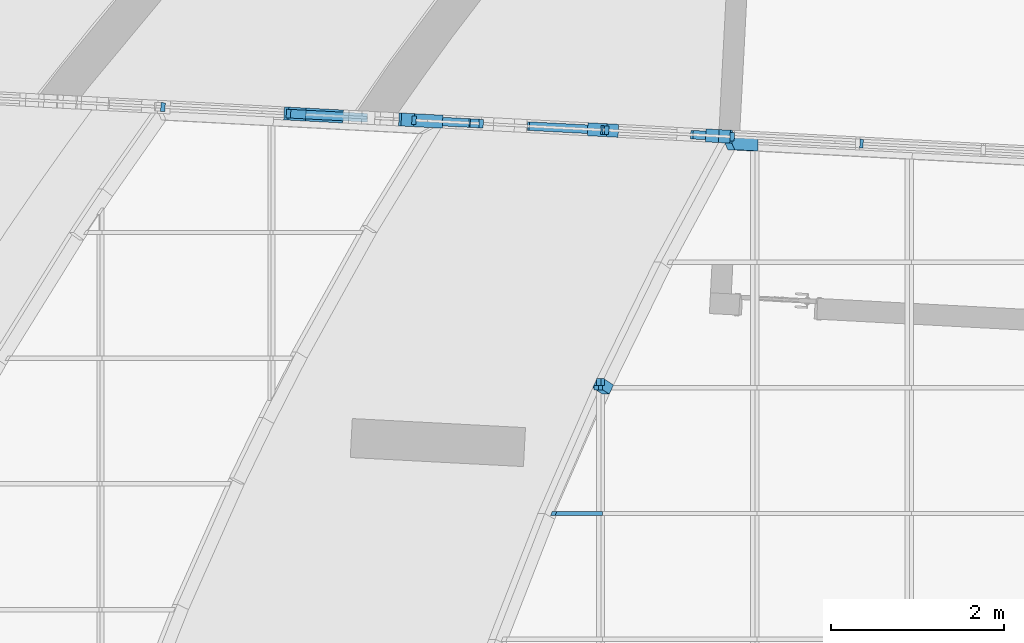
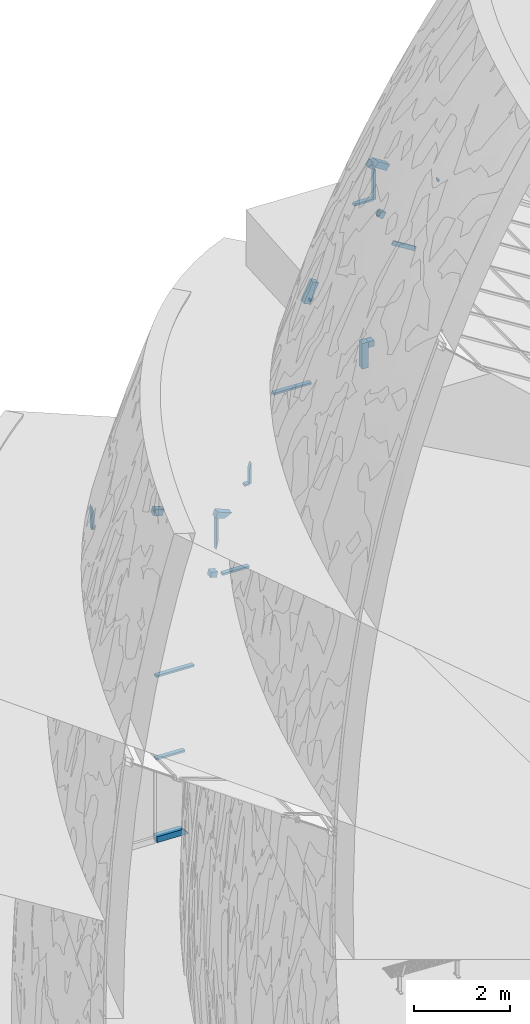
# One storey, part 31 of 82: 28 members, 2 elements without a shape of their own.
"""IFC2X3 building model written with IfcOpenShell, lengths in millimetres."""

from ifc_helpers import new_model, entity, si_unit, converted_unit, derived_unit, direction, frame, frame_2d, origin, origin_2d_with_axis, place, context, subcontext, project, spatial, polyline, rectangle, extrude, clip, halfspace, bounded_halfspace, source, transform, mapped, material, type_object, type_shapes, element, aggregate, save


model = new_model("IFC2X3")

# Units and contexts
model_context = context("Model", 3, precision=0.01, world=origin(), true_north=direction((6.12303176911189e-17, 1.0)))
body_context = subcontext(model_context, "Body", "Model", "MODEL_VIEW")
ifc_project = project(units=[si_unit("LENGTHUNIT", "METRE", prefix="MILLI"), si_unit("AREAUNIT", "SQUARE_METRE"), si_unit("VOLUMEUNIT", "CUBIC_METRE"), converted_unit("PLANEANGLEUNIT", "DEGREE", entity("IfcRatioMeasure", 0.0174532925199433), si_unit("PLANEANGLEUNIT", "RADIAN"), dimensions=[0, 0, 0, 0, 0, 0, 0]), si_unit("MASSUNIT", "GRAM", prefix="KILO"), derived_unit("MASSDENSITYUNIT", [(si_unit("MASSUNIT", "GRAM", prefix="KILO"), 1), (si_unit("LENGTHUNIT", "METRE"), -3)]), si_unit("TIMEUNIT", "SECOND"), si_unit("FREQUENCYUNIT", "HERTZ"), si_unit("THERMODYNAMICTEMPERATUREUNIT", "DEGREE_CELSIUS"), derived_unit("THERMALTRANSMITTANCEUNIT", [(si_unit("MASSUNIT", "GRAM", prefix="KILO"), 1), (si_unit("THERMODYNAMICTEMPERATUREUNIT", "KELVIN"), -1), (si_unit("TIMEUNIT", "SECOND"), -3)]), derived_unit("VOLUMETRICFLOWRATEUNIT", [(si_unit("LENGTHUNIT", "METRE"), 3), (si_unit("TIMEUNIT", "SECOND"), -1)]), si_unit("ELECTRICCURRENTUNIT", "AMPERE"), si_unit("ELECTRICVOLTAGEUNIT", "VOLT"), si_unit("POWERUNIT", "WATT"), si_unit("FORCEUNIT", "NEWTON", prefix="KILO"), si_unit("ILLUMINANCEUNIT", "LUX"), si_unit("LUMINOUSFLUXUNIT", "LUMEN"), si_unit("LUMINOUSINTENSITYUNIT", "CANDELA"), derived_unit("USERDEFINED", [(si_unit("MASSUNIT", "GRAM", prefix="KILO"), -1), (si_unit("LENGTHUNIT", "METRE"), -2), (si_unit("TIMEUNIT", "SECOND"), 3), (si_unit("LUMINOUSFLUXUNIT", "LUMEN"), 1)]), derived_unit("LINEARVELOCITYUNIT", [(si_unit("LENGTHUNIT", "METRE"), 1), (si_unit("TIMEUNIT", "SECOND"), -1)]), si_unit("PRESSUREUNIT", "PASCAL"), derived_unit("USERDEFINED", [(si_unit("LENGTHUNIT", "METRE"), -2), (si_unit("MASSUNIT", "GRAM", prefix="KILO"), 1), (si_unit("TIMEUNIT", "SECOND"), -2)])], contexts=[model_context])

# Site, building, storey
site_placement = place(None, origin())
site = spatial("IfcSite", under=ifc_project, at=site_placement, Name="表面", CompositionType="ELEMENT")
building_placement = place(site_placement, origin())
building = spatial("IfcBuilding", under=site, at=building_placement, CompositionType="ELEMENT")
storey_placement = place(building_placement, origin())
storey = spatial("IfcBuildingStorey", under=building, at=storey_placement, Name="1F", CompositionType="ELEMENT", Elevation=0.0)

# Curtain wall, members
curtain_wall_type = type_object("IfcCurtainWallType", Name="幕墙系统:1450 x 2100mm", PredefinedType="NOTDEFINED")
curtain_wall_1_placement = place(storey_placement, origin())
curtain_wall_1 = element("IfcCurtainWall", 1, at=curtain_wall_1_placement, inside=storey, type_object=curtain_wall_type, Name="幕墙系统:1450 x 2100mm", ObjectType="幕墙系统:1450 x 2100mm")
ifc_material_1 = material(Name="木质 - 木材")
member_type_1 = type_object("IfcMemberType", Name="200 x 150mm", PredefinedType="MEMBER")
shared_shape_1 = source(origin(), body_context, "Body", "SweptSolid", [
    extrude(rectangle(XDim=150.0, YDim=150.0, at=origin_2d_with_axis()), frame((-75.0, 0.0, -119.992011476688), z_axis=(0.0, 0.0, 1.0), x_axis=(0.0, -1.0, 0.0)), (0.0, 0.0, 1.0), 119.992011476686),
])
type_shapes(member_type_1, [shared_shape_1])
placement_1 = place(building_placement, frame((0.0, 0.0, 9000.0)))
member_1_placement = place(placement_1, frame((-27042.7036207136, -233.58766932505, 7594.35361657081), z_axis=(0.406413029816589, 0.877687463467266, -0.253955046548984), x_axis=(-0.744321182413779, 0.47923346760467, 0.465103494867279)))
member_1 = element("IfcMember", 2, at=member_1_placement, type_object=member_type_1, material=ifc_material_1, Name="矩形竖梃:200 x 150mm", ObjectType="200 x 150mm", context=body_context, shape_type="MappedRepresentation", body=[
    mapped(shared_shape_1, transform((0.0, 0.0, 0.0), scale=1.0)),
])
member_type_2 = type_object("IfcMemberType", Name="200 x 150mm", PredefinedType="MEMBER")
shared_shape_2 = source(origin(), body_context, "Body", "Clipping", [
    clip(extrude(rectangle(XDim=150.0, YDim=150.0, at=origin_2d_with_axis()), frame((-75.0, 0.0, -400.106505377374), z_axis=(0.0, 0.0, 1.0), x_axis=(0.0, -1.0, 0.0)), (0.0, 0.0, 1.0), 400.106505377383), halfspace(frame((0.0, -304.799999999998, -400.106505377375), z_axis=(-0.500013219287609, 0.0, -0.866017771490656), x_axis=(-0.866017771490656, 0.0, 0.500013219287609)), False)),
])
type_shapes(member_type_2, [shared_shape_2])
member_2_placement = place(placement_1, frame((-25261.8026187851, 2543.33192279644, 6481.52316168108), z_axis=(0.847211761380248, -0.0444004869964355, -0.52939666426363), x_axis=(0.0376537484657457, 0.999013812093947, -0.0235286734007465)))
member_2 = element("IfcMember", 3, at=member_2_placement, type_object=member_type_2, material=ifc_material_1, Name="矩形竖梃:200 x 150mm", ObjectType="200 x 150mm", context=body_context, shape_type="MappedRepresentation", body=[
    mapped(shared_shape_2, transform((0.0, 0.0, 0.0), scale=1.0)),
])
ifc_material_2 = material(Name="金属 - 铝")
member_type_3 = type_object("IfcMemberType", Name="50 x 100mm", PredefinedType="MEMBER")
shared_shape_3 = source(origin(), body_context, "Body", "SweptSolid", [
    extrude(rectangle(XDim=100.0, YDim=50.0, at=origin_2d_with_axis()), frame((0.0, 0.0, -80.3154841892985), z_axis=(0.0, 0.0, 1.0), x_axis=(0.0, -1.0, 0.0)), (0.0, 0.0, 1.0), 80.3154841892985),
])
type_shapes(member_type_3, [shared_shape_3])
member_3_placement = place(placement_1, frame((-27042.7036207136, -233.58766932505, 7594.35361657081), z_axis=(0.0, 1.0, 0.0), x_axis=(-0.848048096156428, 0.0, 0.529919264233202)))
member_3 = element("IfcMember", 4, at=member_3_placement, type_object=member_type_3, material=ifc_material_2, Name="矩形竖梃:50 x 100mm", ObjectType="50 x 100mm", context=body_context, shape_type="MappedRepresentation", body=[
    mapped(shared_shape_3, transform((0.0, 0.0, 0.0), scale=1.0)),
])
member_type_4 = type_object("IfcMemberType", Name="50 x 100mm", PredefinedType="MEMBER")
shared_shape_4 = source(origin(), body_context, "Body", "SweptSolid", [
    extrude(rectangle(XDim=100.0, YDim=50.0, at=origin_2d_with_axis()), frame((0.0, 0.0, -57.5041877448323), z_axis=(0.0, 0.0, 1.0), x_axis=(0.0, -1.0, 0.0)), (0.0, 0.0, 1.0), 57.5041877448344),
])
type_shapes(member_type_4, [shared_shape_4])
member_4_placement = place(placement_1, frame((-27091.4699376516, -338.903153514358, 7624.82619343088), z_axis=(-0.848048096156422, 0.0, 0.529919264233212), x_axis=(0.0, -1.0, 0.0)))
member_4 = element("IfcMember", 5, at=member_4_placement, type_object=member_type_4, material=ifc_material_2, Name="矩形竖梃:50 x 100mm", ObjectType="50 x 100mm", context=body_context, shape_type="MappedRepresentation", body=[
    mapped(shared_shape_4, transform((0.0, 0.0, 0.0), scale=1.0)),
])
member_type_5 = type_object("IfcMemberType", Name="50 x 100mm", PredefinedType="MEMBER")
shared_shape_5 = source(origin(), body_context, "Body", "Clipping", [
    clip(extrude(rectangle(XDim=100.0, YDim=50.0, at=frame_2d((-3.19744231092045e-14, 0.0), x_axis=(1.0, 0.0))), frame((0.0, 0.0, -804.346636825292), z_axis=(0.0, 0.0, 1.0), x_axis=(0.0, -1.0, 0.0)), (0.0, 0.0, 1.0), 648.495520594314), halfspace(frame((-1381.31575991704, 75.0, -880.193396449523), z_axis=(-0.457894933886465, 0.0, 0.889006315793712), x_axis=(0.889006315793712, 0.0, 0.457894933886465)), False)),
])
type_shapes(member_type_5, [shared_shape_5])
member_5_placement = place(placement_1, frame((-27724.8282547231, -1788.90315351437, 8020.59239454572), z_axis=(-0.848048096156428, 0.0, 0.529919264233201), x_axis=(0.0, -1.0, 0.0)))
member_5 = element("IfcMember", 6, at=member_5_placement, type_object=member_type_5, material=ifc_material_2, Name="矩形竖梃:50 x 100mm", ObjectType="50 x 100mm", context=body_context, shape_type="MappedRepresentation", body=[
    mapped(shared_shape_5, transform((0.0, 0.0, 0.0), scale=1.0)),
])
member_type_6 = type_object("IfcMemberType", Name="200 x 150mm", PredefinedType="MEMBER")
shared_shape_6 = source(origin(), body_context, "Body", "SweptSolid", [
    extrude(rectangle(XDim=150.0, YDim=150.0, at=origin_2d_with_axis()), frame((-75.0, 0.0, -92.6751267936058), z_axis=(0.0, 0.0, 1.0), x_axis=(0.0, -1.0, 0.0)), (0.0, 0.0, 1.0), 92.6751267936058),
])
type_shapes(member_type_6, [shared_shape_6])
member_6_placement = place(placement_1, frame((-25600.7775559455, 2561.09684648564, 6693.33821097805), z_axis=(-0.847211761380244, 0.0444004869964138, 0.529396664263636), x_axis=(0.528671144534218, -0.0277064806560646, 0.848374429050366)))
member_6 = element("IfcMember", 7, at=member_6_placement, type_object=member_type_6, material=ifc_material_1, Name="矩形竖梃:200 x 150mm", ObjectType="200 x 150mm", context=body_context, shape_type="MappedRepresentation", body=[
    mapped(shared_shape_6, transform((0.0, 0.0, 0.0), scale=1.0)),
])
member_type_7 = type_object("IfcMemberType", Name="200 x 150mm", PredefinedType="MEMBER")
shared_shape_7 = source(origin(), body_context, "Body", "SweptSolid", [
    extrude(rectangle(XDim=150.0, YDim=150.0, at=origin_2d_with_axis()), frame((-75.0, 0.0, -650.0), z_axis=(0.0, 0.0, 1.0), x_axis=(0.0, -1.0, 0.0)), (0.0, 0.0, 1.0), 650.0),
])
type_shapes(member_type_7, [shared_shape_7])
member_7_placement = place(placement_1, frame((-25677.8515984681, 2565.13612589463, 2150.0), z_axis=(0.0, 0.0, 1.0), x_axis=(0.998629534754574, -0.0523359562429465, 0.0)))
member_7 = element("IfcMember", 8, at=member_7_placement, type_object=member_type_7, material=ifc_material_1, Name="矩形竖梃:200 x 150mm", ObjectType="200 x 150mm", context=body_context, shape_type="MappedRepresentation", body=[
    mapped(shared_shape_7, transform((0.0, 0.0, 0.0), scale=1.0)),
])
member_type_8 = type_object("IfcMemberType", Name="200 x 150mm", PredefinedType="MEMBER")
shared_shape_8 = source(origin(), body_context, "Body", "SweptSolid", [
    extrude(rectangle(XDim=150.0, YDim=150.0, at=origin_2d_with_axis()), frame((-75.0, 0.0, -130.803022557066), z_axis=(0.0, 0.0, 1.0), x_axis=(0.0, -1.0, 0.0)), (0.0, 0.0, 1.0), 130.803022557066),
])
type_shapes(member_type_8, [shared_shape_8])
member_8_placement = place(placement_1, frame((-25547.2278369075, 2558.29042462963, 2000.0), z_axis=(0.998629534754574, -0.0523359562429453, 0.0), x_axis=(0.0, 0.0, -1.0)))
member_8 = element("IfcMember", 9, at=member_8_placement, type_object=member_type_8, material=ifc_material_1, Name="矩形竖梃:200 x 150mm", ObjectType="200 x 150mm", context=body_context, shape_type="MappedRepresentation", body=[
    mapped(shared_shape_8, transform((0.0, 0.0, 0.0), scale=1.0)),
])
member_type_9 = type_object("IfcMemberType", Name="200 x 150mm", PredefinedType="MEMBER")
shared_shape_9 = source(origin(), body_context, "Body", "Clipping", [
    clip(clip(extrude(rectangle(XDim=150.0, YDim=150.0, at=origin_2d_with_axis()), frame((-75.0, 0.0, -531.708752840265), z_axis=(0.0, 0.0, 1.0), x_axis=(0.0, -1.0, 0.0)), (0.0, 0.0, 1.0), 531.708752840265), halfspace(frame((0.0, -304.8, -531.708752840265), z_axis=(-0.0188956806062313, 0.0, -0.999821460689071), x_axis=(-0.999821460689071, 0.0, 0.0188956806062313)), False)), halfspace(frame((0.0, -304.8, 0.0), z_axis=(-0.0225704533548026, 0.0, 0.999745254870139), x_axis=(-0.999745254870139, 0.0, -0.0225704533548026)), False)),
])
type_shapes(member_type_9, [shared_shape_9])
member_9_placement = place(placement_1, frame((-27190.4935887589, 2644.41033345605, 3600.0), z_axis=(-0.414171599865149, 0.0217058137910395, -0.909939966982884), x_axis=(-0.90869292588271, 0.0476225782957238, 0.414739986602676)))
member_9 = element("IfcMember", 10, at=member_9_placement, type_object=member_type_9, material=ifc_material_1, Name="矩形竖梃:200 x 150mm", ObjectType="200 x 150mm", context=body_context, shape_type="MappedRepresentation", body=[
    mapped(shared_shape_9, transform((0.0, 0.0, 0.0), scale=1.0)),
])
member_type_10 = type_object("IfcMemberType", Name="50 x 100mm", PredefinedType="MEMBER")
shared_shape_10 = source(origin(), body_context, "Body", "Clipping", [
    clip(extrude(rectangle(XDim=100.0, YDim=50.0, at=origin_2d_with_axis()), frame((0.0, 0.0, -777.339763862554), z_axis=(0.0, 0.0, 1.0), x_axis=(0.0, -1.0, 0.0)), (0.0, 0.0, 1.0), 629.033748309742), halfspace(frame((-30.5735387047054, 75.0, -146.943247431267), z_axis=(0.237510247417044, 0.0, 0.971385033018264), x_axis=(0.971385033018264, 0.0, -0.237510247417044)), False)),
])
type_shapes(member_type_10, [shared_shape_10])
placement_2 = place(building_placement, frame((0.0, 0.0, 6000.0)))
member_10_placement = place(placement_2, frame((-29219.527934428, 2750.7475176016, 300.0), z_axis=(-0.998629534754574, 0.0523359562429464, 0.0), x_axis=(0.0, 0.0, 1.0)))
member_10 = element("IfcMember", 11, at=member_10_placement, type_object=member_type_10, material=ifc_material_2, Name="矩形竖梃:50 x 100mm", ObjectType="50 x 100mm", context=body_context, shape_type="MappedRepresentation", body=[
    mapped(shared_shape_10, transform((0.0, 0.0, 0.0), scale=1.0)),
])
member_type_11 = type_object("IfcMemberType", Name="50 x 100mm", PredefinedType="MEMBER")
shared_shape_11 = source(origin(), body_context, "Body", "Clipping", [
    clip(extrude(rectangle(XDim=100.0, YDim=50.0, at=origin_2d_with_axis()), frame((0.0, 0.0, -263.875480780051), z_axis=(0.0, 0.0, 1.0), x_axis=(0.0, -1.0, 0.0)), (0.0, 0.0, 1.0), 114.780327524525), halfspace(frame((-39.3556639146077, 75.0, -144.795958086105), z_axis=(0.286888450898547, 0.0, 0.957963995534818), x_axis=(0.957963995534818, 0.0, -0.286888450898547)), False)),
])
type_shapes(member_type_11, [shared_shape_11])
member_11_placement = place(placement_2, frame((-28706.7673363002, 2723.87487334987, 2400.0), z_axis=(-0.998629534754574, 0.0523359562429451, 0.0), x_axis=(0.0, 0.0, 1.0)))
member_11 = element("IfcMember", 12, at=member_11_placement, type_object=member_type_11, material=ifc_material_2, Name="矩形竖梃:50 x 100mm", ObjectType="50 x 100mm", context=body_context, shape_type="MappedRepresentation", body=[
    mapped(shared_shape_11, transform((0.0, 0.0, 0.0), scale=1.0)),
])
member_type_12 = type_object("IfcMemberType", Name="50 x 100mm", PredefinedType="MEMBER")
shared_shape_12 = source(origin(), body_context, "Body", "Clipping", [
    clip(extrude(rectangle(XDim=100.0, YDim=50.0, at=origin_2d_with_axis()), frame((0.0, 0.0, -1040.41123048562), z_axis=(0.0, 0.0, 1.0), x_axis=(0.0, -1.0, 0.0)), (0.0, 0.0, 1.0), 888.784448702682), halfspace(frame((-52.0961476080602, 75.0, -140.725222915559), z_axis=(0.373252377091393, 0.0, 0.92772984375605), x_axis=(0.92772984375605, 0.0, -0.373252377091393)), False)),
])
type_shapes(member_type_12, [shared_shape_12])
member_12_placement = place(placement_1, frame((-28034.2260453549, 2688.62847781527, 1500.0), z_axis=(-0.998629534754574, 0.0523359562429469, 0.0), x_axis=(0.0, 0.0, 1.0)))
member_12 = element("IfcMember", 13, at=member_12_placement, type_object=member_type_12, material=ifc_material_2, Name="矩形竖梃:50 x 100mm", ObjectType="50 x 100mm", context=body_context, shape_type="MappedRepresentation", body=[
    mapped(shared_shape_12, transform((0.0, 0.0, 0.0), scale=1.0)),
])
member_type_13 = type_object("IfcMemberType", Name="50 x 100mm", PredefinedType="MEMBER")
shared_shape_13 = source(origin(), body_context, "Body", "Clipping", [
    clip(extrude(rectangle(XDim=100.0, YDim=50.0, at=origin_2d_with_axis()), frame((0.0, 0.0, -195.520881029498), z_axis=(0.0, 0.0, 1.0), x_axis=(0.0, -1.0, 0.0)), (0.0, 0.0, 1.0), 42.0695486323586), halfspace(frame((-59.1295493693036, 75.0, -137.895483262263), z_axis=(0.414739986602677, 0.0, 0.909939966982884), x_axis=(0.909939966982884, 0.0, -0.414739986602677)), False)),
])
type_shapes(member_type_13, [shared_shape_13])
member_13_placement = place(placement_1, frame((-27190.4935887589, 2644.41033345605, 3600.0), z_axis=(-0.998629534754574, 0.0523359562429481, 0.0), x_axis=(0.0, 0.0, 1.0)))
member_13 = element("IfcMember", 14, at=member_13_placement, type_object=member_type_13, material=ifc_material_2, Name="矩形竖梃:50 x 100mm", ObjectType="50 x 100mm", context=body_context, shape_type="MappedRepresentation", body=[
    mapped(shared_shape_13, transform((0.0, 0.0, 0.0), scale=1.0)),
])
member_type_14 = type_object("IfcMemberType", Name="50 x 100mm", PredefinedType="MEMBER")
shared_shape_14 = source(origin(), body_context, "Body", "Clipping", [
    clip(extrude(rectangle(XDim=100.0, YDim=50.0, at=origin_2d_with_axis()), frame((0.0, 0.0, -613.265696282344), z_axis=(0.0, 0.0, 1.0), x_axis=(0.0, -1.0, 0.0)), (0.0, 0.0, 1.0), 455.182556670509), halfspace(frame((-70.5159292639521, 75.0, -132.439660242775), z_axis=(0.490853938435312, 0.0, 0.871241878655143), x_axis=(0.871241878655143, 0.0, -0.490853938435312)), False)),
])
type_shapes(member_type_14, [shared_shape_14])
member_14_placement = place(placement_1, frame((-26159.6530738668, 2590.38627127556, 5700.0), z_axis=(-0.998629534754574, 0.0523359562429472, 0.0), x_axis=(0.0, 0.0, 1.0)))
member_14 = element("IfcMember", 15, at=member_14_placement, type_object=member_type_14, material=ifc_material_2, Name="矩形竖梃:50 x 100mm", ObjectType="50 x 100mm", context=body_context, shape_type="MappedRepresentation", body=[
    mapped(shared_shape_14, transform((0.0, 0.0, 0.0), scale=1.0)),
])
member_type_15 = type_object("IfcMemberType", Name="50 x 100mm", PredefinedType="MEMBER")
shared_shape_15 = source(origin(), body_context, "Body", "SweptSolid", [
    extrude(rectangle(XDim=100.0, YDim=50.0, at=origin_2d_with_axis()), frame((0.0, 0.0, -38.231812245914), z_axis=(0.0, 0.0, 1.0), x_axis=(0.0, -1.0, 0.0)), (0.0, 0.0, 1.0), 38.2318122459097),
])
type_shapes(member_type_15, [shared_shape_15])
member_15_placement = place(placement_1, frame((-24049.2835347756, 2479.78649026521, 5700.0), z_axis=(-0.998629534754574, 0.0523359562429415, 0.0), x_axis=(0.0, 0.0, 1.0)))
member_15 = element("IfcMember", 16, at=member_15_placement, type_object=member_type_15, material=ifc_material_2, Name="矩形竖梃:50 x 100mm", ObjectType="50 x 100mm", context=body_context, shape_type="MappedRepresentation", body=[
    mapped(shared_shape_15, transform((0.0, 0.0, 0.0), scale=1.0)),
])
member_type_16 = type_object("IfcMemberType", Name="50 x 100mm", PredefinedType="MEMBER")
shared_shape_16 = source(origin(), body_context, "Body", "Clipping", [
    clip(extrude(rectangle(XDim=100.0, YDim=50.0, at=origin_2d_with_axis()), frame((0.0, 0.0, -964.598989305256), z_axis=(0.0, 0.0, 1.0), x_axis=(0.0, -1.0, 0.0)), (0.0, 0.0, 1.0), 525.226474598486), halfspace(frame((-145.180881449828, 75.0, -1007.63225694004), z_axis=(-0.957963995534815, 0.0, 0.286888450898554), x_axis=(0.286888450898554, 0.0, 0.957963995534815)), False)),
])
type_shapes(member_type_16, [shared_shape_16])
member_16_placement = place(placement_2, frame((-28418.2877493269, 2708.75629882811, 3364.5989893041), z_axis=(0.0, 0.0, 1.0), x_axis=(0.998629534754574, -0.0523359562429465, 0.0)))
member_16 = element("IfcMember", 17, at=member_16_placement, type_object=member_type_16, material=ifc_material_2, Name="矩形竖梃:50 x 100mm", ObjectType="50 x 100mm", context=body_context, shape_type="MappedRepresentation", body=[
    mapped(shared_shape_16, transform((0.0, 0.0, 0.0), scale=1.0)),
])
member_type_17 = type_object("IfcMemberType", Name="50 x 100mm", PredefinedType="MEMBER")
shared_shape_17 = source(origin(), body_context, "Body", "Clipping", [
    clip(extrude(rectangle(XDim=100.0, YDim=50.0, at=origin_2d_with_axis()), frame((0.0, 0.0, -483.823045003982), z_axis=(0.0, 0.0, 1.0), x_axis=(0.0, -1.0, 0.0)), (0.0, 0.0, 1.0), 177.000686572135), halfspace(frame((-84.0298859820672, 75.0, -546.034042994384), z_axis=(-0.909939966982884, 0.0, 0.414739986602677), x_axis=(0.414739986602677, 0.0, 0.909939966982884)), False)),
])
type_shapes(member_type_17, [shared_shape_17])
member_17_placement = place(placement_1, frame((-26970.2749239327, 2632.86916227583, 4083.82304500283), z_axis=(0.0, 0.0, 1.0), x_axis=(0.998629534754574, -0.0523359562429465, 0.0)))
member_17 = element("IfcMember", 18, at=member_17_placement, type_object=member_type_17, material=ifc_material_2, Name="矩形竖梃:50 x 100mm", ObjectType="50 x 100mm", context=body_context, shape_type="MappedRepresentation", body=[
    mapped(shared_shape_17, transform((0.0, 0.0, 0.0), scale=1.0)),
])
member_type_18 = type_object("IfcMemberType", Name="50 x 100mm", PredefinedType="MEMBER")
shared_shape_18 = source(origin(), body_context, "Body", "Clipping", [
    clip(extrude(rectangle(XDim=100.0, YDim=50.0, at=origin_2d_with_axis()), frame((0.0, 0.0, -944.276307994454), z_axis=(0.0, 0.0, 1.0), x_axis=(0.0, -1.0, 0.0)), (0.0, 0.0, 1.0), 783.067909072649), halfspace(frame((-79.4094996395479, 75.0, -127.256164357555), z_axis=(0.52939666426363, 0.0, 0.84837442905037), x_axis=(0.84837442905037, 0.0, -0.52939666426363)), False)),
])
type_shapes(member_type_18, [shared_shape_18])
member_18_placement = place(placement_1, frame((-25522.2620985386, 2556.98202572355, 6644.2763079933), z_axis=(0.0, 0.0, 1.0), x_axis=(0.998629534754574, -0.0523359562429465, 0.0)))
member_18 = element("IfcMember", 19, at=member_18_placement, type_object=member_type_18, material=ifc_material_2, Name="矩形竖梃:50 x 100mm", ObjectType="50 x 100mm", context=body_context, shape_type="MappedRepresentation", body=[
    mapped(shared_shape_18, transform((0.0, 0.0, 0.0), scale=1.0)),
])
aggregate(curtain_wall_1, [member_1, member_2, member_3, member_4, member_5, member_6, member_7, member_8, member_9, member_10, member_11, member_12, member_13, member_14, member_15, member_16, member_17, member_18])

curtain_wall_2_placement = place(storey_placement, origin())
curtain_wall_2 = element("IfcCurtainWall", 20, at=curtain_wall_2_placement, inside=storey, type_object=curtain_wall_type, Name="幕墙系统:1450 x 2100mm", ObjectType="幕墙系统:1450 x 2100mm")
member_type_19 = type_object("IfcMemberType", Name="200 x 150mm", PredefinedType="MEMBER")
shared_shape_19 = source(origin(), body_context, "Body", "Clipping", [
    clip(extrude(rectangle(XDim=150.0, YDim=150.0, at=origin_2d_with_axis()), frame((-75.0, 0.0, -749.616838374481), z_axis=(0.0, 0.0, 1.0), x_axis=(0.0, -1.0, 0.0)), (0.0, 0.0, 1.0), 749.616838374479), halfspace(frame((0.0, -304.8, 0.0), z_axis=(-0.695007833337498, 0.0, 0.719002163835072), x_axis=(-0.719002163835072, 0.0, -0.695007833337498)), False)),
])
type_shapes(member_type_19, [shared_shape_19])
member_19_placement = place(storey_placement, frame((-29866.9896060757, 2783.63437901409, 0.0), z_axis=(0.998629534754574, -0.0523359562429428, 0.0), x_axis=(0.0, 0.0, -1.0)))
member_19 = element("IfcMember", 21, at=member_19_placement, type_object=member_type_19, material=ifc_material_1, Name="矩形竖梃:200 x 150mm", ObjectType="200 x 150mm", context=body_context, shape_type="MappedRepresentation", body=[
    mapped(shared_shape_19, transform((0.0, 0.0, 0.0), scale=1.0)),
])
member_type_20 = type_object("IfcMemberType", Name="200 x 150mm", PredefinedType="MEMBER")
shared_shape_20 = source(origin(), body_context, "Body", "SweptSolid", [
    extrude(rectangle(XDim=150.0, YDim=150.0, at=frame_2d((0.0, 1.4210854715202e-14), x_axis=(1.0, 0.0))), frame((-75.0, 0.0, -212.275337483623), z_axis=(0.0, 0.0, 1.0), x_axis=(0.0, -1.0, 0.0)), (0.0, 0.0, 1.0), 212.275337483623),
])
type_shapes(member_type_20, [shared_shape_20])
member_20_placement = place(placement_2, frame((-30640.5448589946, 2824.17469197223, 2472.51456028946), z_axis=(-0.93855517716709, 0.0491875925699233, 0.34160614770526), x_axis=(0.341137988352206, -0.017878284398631, 0.939843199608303)))
member_20 = element("IfcMember", 22, at=member_20_placement, type_object=member_type_20, material=ifc_material_1, Name="矩形竖梃:200 x 150mm", ObjectType="200 x 150mm", context=body_context, shape_type="MappedRepresentation", body=[
    mapped(shared_shape_20, transform((0.0, 0.0, 0.0), scale=1.0)),
])
member_type_21 = type_object("IfcMemberType", Name="200 x 150mm", PredefinedType="MEMBER")
shared_shape_21 = source(origin(), body_context, "Body", "Clipping", [
    clip(extrude(rectangle(XDim=150.0, YDim=150.0, at=origin_2d_with_axis()), frame((-75.0, 0.0, -350.884674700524), z_axis=(0.0, 0.0, 1.0), x_axis=(0.0, -1.0, 0.0)), (0.0, 0.0, 1.0), 350.884674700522), halfspace(frame((0.0, -304.8, -350.884674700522), z_axis=(-0.664831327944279, 0.0, -0.746993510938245), x_axis=(-0.746993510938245, 0.0, 0.664831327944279)), False)),
])
type_shapes(member_type_21, [shared_shape_21])
member_21_placement = place(placement_2, frame((-29192.5320336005, 2748.28755541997, 1945.4809930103), z_axis=(-0.93855517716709, 0.0491875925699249, 0.34160614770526), x_axis=(0.341137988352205, -0.017878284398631, 0.939843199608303)))
member_21 = element("IfcMember", 23, at=member_21_placement, type_object=member_type_21, material=ifc_material_1, Name="矩形竖梃:200 x 150mm", ObjectType="200 x 150mm", context=body_context, shape_type="MappedRepresentation", body=[
    mapped(shared_shape_21, transform((0.0, 0.0, 0.0), scale=1.0)),
])
member_type_22 = type_object("IfcMemberType", Name="200 x 150mm", PredefinedType="MEMBER")
shared_shape_22 = source(origin(), body_context, "Body", "SweptSolid", [
    extrude(rectangle(XDim=150.0, YDim=150.0, at=origin_2d_with_axis()), frame((-75.0, 0.0, -134.915720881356), z_axis=(0.0, 0.0, 1.0), x_axis=(0.0, -1.0, 0.0)), (0.0, 0.0, 1.0), 134.915720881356),
])
type_shapes(member_type_22, [shared_shape_22])
member_22_placement = place(placement_2, frame((-29192.5320336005, 2748.28755541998, 432.033848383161), z_axis=(0.205302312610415, -0.0107594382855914, 0.978639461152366), x_axis=(0.977298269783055, -0.0512180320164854, -0.20558405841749)))
member_22 = element("IfcMember", 24, at=member_22_placement, type_object=member_type_22, material=ifc_material_1, Name="矩形竖梃:200 x 150mm", ObjectType="200 x 150mm", context=body_context, shape_type="MappedRepresentation", body=[
    mapped(shared_shape_22, transform((0.0, 0.0, 0.0), scale=1.0)),
])
member_type_23 = type_object("IfcMemberType", Name="50 x 100mm", PredefinedType="MEMBER")
shared_shape_23 = source(origin(), body_context, "Body", "Clipping", [
    clip(clip(extrude(rectangle(XDim=100.0, YDim=50.0, at=origin_2d_with_axis()), frame((0.0, 0.0, -672.681958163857), z_axis=(0.0, 0.0, 1.0), x_axis=(0.0, -1.0, 0.0)), (0.0, 0.0, 1.0), 672.681958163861), bounded_halfspace(frame((10.1902887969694, 75.0, -671.166679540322), z_axis=(-0.0339282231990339, 0.0, -0.999424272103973), x_axis=(-0.999424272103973, 0.0, 0.0339282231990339)), False, frame((0.0, 0.0, -672.681958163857), z_axis=(0.0, 0.0, 1.0), x_axis=(0.0, -1.0, 0.0)), polyline([(50.0, 10.1902887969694), (50.0, -25.0), (-50.0, -25.0), (-50.0, 10.1902887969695), (50.0, 10.1902887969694)]))), bounded_halfspace(frame((2115.26777454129, 75.0, -886.550954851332), z_axis=(-0.101785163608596, 0.0, -0.994806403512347), x_axis=(-0.994806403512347, 0.0, 0.101785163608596)), False, frame((0.0, 0.0, -672.681958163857), z_axis=(0.0, 0.0, 1.0), x_axis=(0.0, -1.0, 0.0)), polyline([(-50.0, 25.0), (50.0, 25.0), (50.0, 10.1902887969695), (-50.0, 10.1902887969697), (-50.0, 25.0)]))),
])
type_shapes(member_type_23, [shared_shape_23])
member_23_placement = place(storey_placement, frame((-30615.5791206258, 2822.86629306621, 2100.0), z_axis=(-0.998629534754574, 0.0523359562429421, 0.0), x_axis=(0.0, 0.0, 1.0)))
member_23 = element("IfcMember", 25, at=member_23_placement, type_object=member_type_23, material=ifc_material_2, Name="矩形竖梃:50 x 100mm", ObjectType="50 x 100mm", context=body_context, shape_type="MappedRepresentation", body=[
    mapped(shared_shape_23, transform((0.0, 0.0, 0.0), scale=1.0)),
])
member_type_24 = type_object("IfcMemberType", Name="50 x 100mm", PredefinedType="MEMBER")
shared_shape_24 = source(origin(), body_context, "Body", "Clipping", [
    clip(clip(extrude(rectangle(XDim=100.0, YDim=50.0, at=origin_2d_with_axis()), frame((0.0, 0.0, -887.869226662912), z_axis=(0.0, 0.0, 1.0), x_axis=(0.0, -1.0, 0.0)), (0.0, 0.0, 1.0), 887.869226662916), bounded_halfspace(frame((20.3810730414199, 75.0, -887.074129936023), z_axis=(-0.101785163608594, 0.0, -0.994806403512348), x_axis=(-0.994806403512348, 0.0, 0.101785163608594)), False, frame((0.0, 0.0, -887.869226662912), z_axis=(0.0, 0.0, 1.0), x_axis=(0.0, -1.0, 0.0)), polyline([(50.0, 20.3810730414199), (50.0, -25.0), (-50.0, -25.0), (-50.0, 20.3810730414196), (50.0, 20.3810730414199)]))), bounded_halfspace(frame((2125.44656470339, 75.0, -1249.43766097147), z_axis=(-0.169643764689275, 0.0, -0.985505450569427), x_axis=(-0.985505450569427, 0.0, 0.169643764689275)), False, frame((0.0, 0.0, -887.869226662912), z_axis=(0.0, 0.0, 1.0), x_axis=(0.0, -1.0, 0.0)), polyline([(-50.0, 25.0), (50.0, 25.0), (50.0, 20.3810730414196), (-50.0, 20.3810730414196), (-50.0, 25.0)]))),
])
type_shapes(member_type_24, [shared_shape_24])
placement_3 = place(building_placement, frame((0.0, 0.0, 3000.0)))
member_24_placement = place(placement_3, frame((-30615.5791206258, 2822.86629306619, 1200.0), z_axis=(-0.998629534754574, 0.0523359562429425, 0.0), x_axis=(0.0, 0.0, 1.0)))
member_24 = element("IfcMember", 26, at=member_24_placement, type_object=member_type_24, material=ifc_material_2, Name="矩形竖梃:50 x 100mm", ObjectType="50 x 100mm", context=body_context, shape_type="MappedRepresentation", body=[
    mapped(shared_shape_24, transform((0.0, 0.0, 0.0), scale=1.0)),
])
member_type_25 = type_object("IfcMemberType", Name="50 x 100mm", PredefinedType="MEMBER")
shared_shape_25 = source(origin(), body_context, "Body", "SweptSolid", [
    extrude(rectangle(XDim=100.0, YDim=50.0, at=origin_2d_with_axis()), frame((0.0, 0.0, -174.505532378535), z_axis=(0.0, 0.0, 1.0), x_axis=(0.0, -1.0, 0.0)), (0.0, 0.0, 1.0), 174.505532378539),
])
type_shapes(member_type_25, [shared_shape_25])
member_25_placement = place(placement_2, frame((-30615.5791206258, 2822.86629306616, 2400.0), z_axis=(-0.998629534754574, 0.0523359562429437, 0.0), x_axis=(0.0, 0.0, 1.0)))
member_25 = element("IfcMember", 27, at=member_25_placement, type_object=member_type_25, material=ifc_material_2, Name="矩形竖梃:50 x 100mm", ObjectType="50 x 100mm", context=body_context, shape_type="MappedRepresentation", body=[
    mapped(shared_shape_25, transform((0.0, 0.0, 0.0), scale=1.0)),
])
member_type_26 = type_object("IfcMemberType", Name="50 x 100mm", PredefinedType="MEMBER")
shared_shape_26 = source(origin(), body_context, "Body", "Clipping", [
    clip(extrude(rectangle(XDim=100.0, YDim=50.0, at=origin_2d_with_axis()), frame((0.0, 0.0, -599.548127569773), z_axis=(0.0, 0.0, 1.0), x_axis=(0.0, -1.0, 0.0)), (0.0, 0.0, 1.0), 608.634913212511), halfspace(frame((0.0, 0.0, -79.8005454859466), z_axis=(0.962649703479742, 0.0, 0.270749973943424), x_axis=(-0.270749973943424, 0.0, 0.962649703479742)), False)),
])
type_shapes(member_type_26, [shared_shape_26])
member_26_placement = place(placement_2, frame((-32088.5576843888, 2900.06182852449, 2999.54812756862), z_axis=(0.0, 0.0, 1.0), x_axis=(0.998629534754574, -0.0523359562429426, 0.0)))
member_26 = element("IfcMember", 28, at=member_26_placement, type_object=member_type_26, material=ifc_material_2, Name="矩形竖梃:50 x 100mm", ObjectType="50 x 100mm", context=body_context, shape_type="MappedRepresentation", body=[
    mapped(shared_shape_26, transform((0.0, 0.0, 0.0), scale=1.0)),
])
member_type_27 = type_object("IfcMemberType", Name="50 x 100mm", PredefinedType="MEMBER")
shared_shape_27 = source(origin(), body_context, "Body", "SweptSolid", [
    extrude(rectangle(XDim=100.0, YDim=50.0, at=origin_2d_with_axis()), frame((0.0, 0.0, -72.5145602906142), z_axis=(0.0, 0.0, 1.0), x_axis=(0.0, -1.0, 0.0)), (0.0, 0.0, 1.0), 72.5145602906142),
])
type_shapes(member_type_27, [shared_shape_27])
member_27_placement = place(placement_2, frame((-30640.5448589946, 2824.17469197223, 2472.51456028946), z_axis=(0.0, 0.0, 1.0), x_axis=(0.998629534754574, -0.0523359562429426, 0.0)))
member_27 = element("IfcMember", 29, at=member_27_placement, type_object=member_type_27, material=ifc_material_2, Name="矩形竖梃:50 x 100mm", ObjectType="50 x 100mm", context=body_context, shape_type="MappedRepresentation", body=[
    mapped(shared_shape_27, transform((0.0, 0.0, 0.0), scale=1.0)),
])
member_type_28 = type_object("IfcMemberType", Name="50 x 100mm", PredefinedType="MEMBER")
shared_shape_28 = source(origin(), body_context, "Body", "Clipping", [
    clip(clip(extrude(rectangle(XDim=100.0, YDim=50.0, at=origin_2d_with_axis()), frame((0.0, 0.0, -967.711030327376), z_axis=(0.0, 0.0, 1.0), x_axis=(0.0, -1.0, 0.0)), (0.0, 0.0, 1.0), 817.196724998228), halfspace(frame((183.807898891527, 75.0, -85.3224238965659), z_axis=(0.973124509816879, 0.0, -0.230279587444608), x_axis=(-0.230279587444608, 0.0, -0.973124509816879)), False)), halfspace(frame((-51.2409221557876, 75.0, -140.976479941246), z_axis=(0.341606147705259, 0.0, 0.939843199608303), x_axis=(0.939843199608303, 0.0, -0.341606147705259)), False)),
])
type_shapes(member_type_28, [shared_shape_28])
member_28_placement = place(placement_2, frame((-29192.5320336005, 2748.28755541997, 1945.4809930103), z_axis=(0.0, 0.0, 1.0), x_axis=(0.998629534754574, -0.0523359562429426, 0.0)))
member_28 = element("IfcMember", 30, at=member_28_placement, type_object=member_type_28, material=ifc_material_2, Name="矩形竖梃:50 x 100mm", ObjectType="50 x 100mm", context=body_context, shape_type="MappedRepresentation", body=[
    mapped(shared_shape_28, transform((0.0, 0.0, 0.0), scale=1.0)),
])
aggregate(curtain_wall_2, [member_19, member_20, member_21, member_22, member_23, member_24, member_25, member_26, member_27, member_28])

save(model, "model.ifc")
